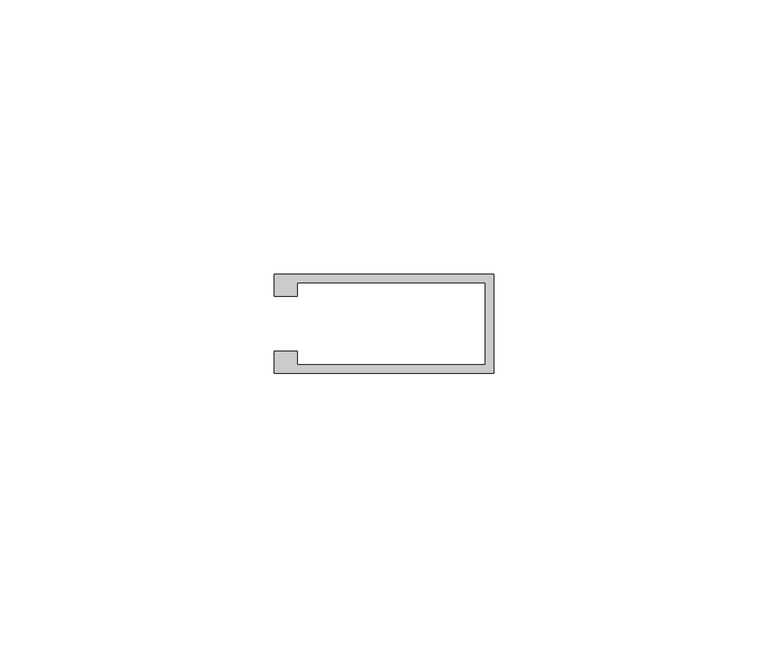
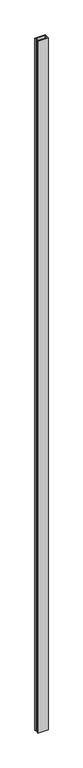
"""IFC4 building model written with IfcOpenShell, lengths in millimetres: member geometry, Прямоугольный импост : 11-AMG-1-Профиль 40Х18 Верх П."""

from ifc_helpers import new_model, si_unit, frame, origin, place, context, project, spatial, polyline, outline, extrude, source, transform, mapped, element, save


def member_8f46e934(model_context):
    return source(origin(), model_context, "Body", "SweptSolid", [
        extrude(outline(polyline([(-40.0, 5.0), (-40.0, 9.0), (0.0, 9.0), (0.0, -9.0), (-40.0, -9.0), (-40.0, -5.0), (-35.8552307, -5.0), (-35.8552307, -7.5), (-1.5, -7.5), (-1.5, 7.5), (-35.8552307, 7.5), (-35.8552307, 5.0), (-40.0, 5.0)])), frame((0.0, 0.0, -2800.0), z_axis=(0.0, 0.0, 1.0), x_axis=(1.0, 0.0, 0.0)), (0.0, 0.0, 1.0), 2800.0),
    ])


if __name__ == "__main__":
    model = new_model("IFC4")
    model_context = context("Model", 3, world=origin())
    ifc_project = project(units=[si_unit("LENGTHUNIT", "METRE", prefix="MILLI")], contexts=[model_context])
    site = spatial("IfcSite", under=ifc_project)
    building = spatial("IfcBuilding", under=site)
    placement = place(None, origin())
    member_shape = member_8f46e934(model_context)
    element("IfcMember", 1, ObjectType="Прямоугольный импост : 11-AMG-1-Профиль 40Х18 Верх П", at=placement, inside=building, context=model_context, shape_type="MappedRepresentation", body=[
        mapped(member_shape, transform((0.0, 0.0, 0.0), x_axis=(1.0, 0.0, 0.0), y_axis=(0.0, 1.0, 0.0), z_axis=(0.0, 0.0, 1.0))),
    ])
    save(model, "model.ifc")
